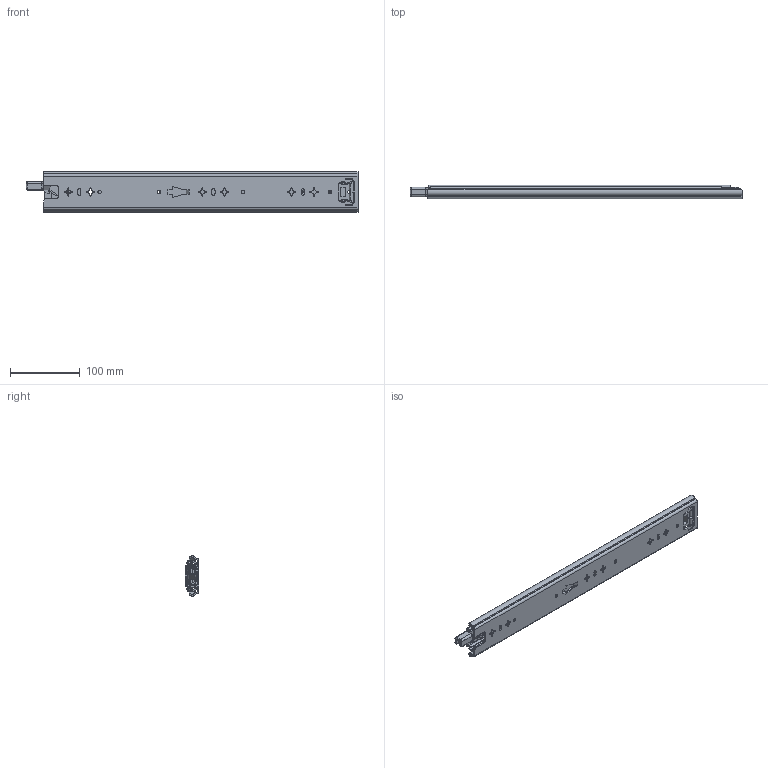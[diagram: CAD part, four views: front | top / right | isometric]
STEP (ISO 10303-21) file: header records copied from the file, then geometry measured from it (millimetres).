
FILE_DESCRIPTION((''),'2;1');
FILE_NAME('KP-57-01ZUZHUANGTU-18YOU_ASM','2023-04-03T',('jishu015'),(''),'PRO/ENGINEER BY PARAMETRIC TECHNOLOGY CORPORATION, 2010280','PRO/ENGINEER BY PARAMETRIC TECHNOLOGY CORPORATION, 2010280','');
FILE_SCHEMA(('CONFIG_CONTROL_DESIGN'));
Length unit declared in the file: millimetre
Products named in the file (21): KP-57-01WEIKE-20__; 1057WEIJIAO__________________; WAIKE_________________ASM; KP-57-01ZHONGGUI-26_____; ZHONGGUIPEIJIAN-20__; ZHONGGUISUOKOU-18_; KP-57-01ZHONGGUI-26______ASM; 1057XIAOZHUJIA111; 1057-5-6GANZHU111; 1057XIAOZHUJIA-14GE26______ASM; KP-57-01NEIGUI-22___; PJ-57-08________________; DIAOPIAN-11________________; 50XINSUOKOU-1________________; 1053-3SBANJI122______________; JIAO11______________; KP-57-01NEIGUI-22____ASM; 1053ZHUTIAO-275_____; 53-5-6GANZHU1__; 1053ZHUTIAO-175MM111__ASM; KP-57-01ZUZHUANGTU-18YOU_ASM
Assembly tree (54 placements, depth 3):
  KP-57-01ZUZHUANGTU-18YOU_ASM
    WAIKE_________________ASM
      KP-57-01WEIKE-20__
      1057WEIJIAO__________________
    KP-57-01ZHONGGUI-26______ASM
      KP-57-01ZHONGGUI-26_____
      ZHONGGUIPEIJIAN-20__
      ZHONGGUISUOKOU-18_
    1057XIAOZHUJIA-14GE26______ASM
      1057XIAOZHUJIA111
      1057-5-6GANZHU111  x28
    KP-57-01NEIGUI-22____ASM
      KP-57-01NEIGUI-22___
      PJ-57-08________________
      DIAOPIAN-11________________
      50XINSUOKOU-1________________
      1053-3SBANJI122______________
      JIAO11______________
    1053ZHUTIAO-175MM111__ASM  x2
      1053ZHUTIAO-275_____
      53-5-6GANZHU1__
Bounding box: 475.42 x 19.01 x 57.67 mm (x, y, z)
Volume: 195478.7 mm3; surface area: 211648 mm2
Topology: 57 solids, 57 shells, 1776 faces, 5089 edges, 3208 vertices
Faces by surface type: plane 766, cylinder 730, sphere 95, bspline 83, cone 60, extrusion 23, torus 19
Entity records: 59264 total; most frequent: CARTESIAN_POINT 15088, ORIENTED_EDGE 9366, DIRECTION 9038, EDGE_CURVE 4683, AXIS2_PLACEMENT_3D 3103, VERTEX_POINT 3028, VECTOR 2832, LINE 2809
